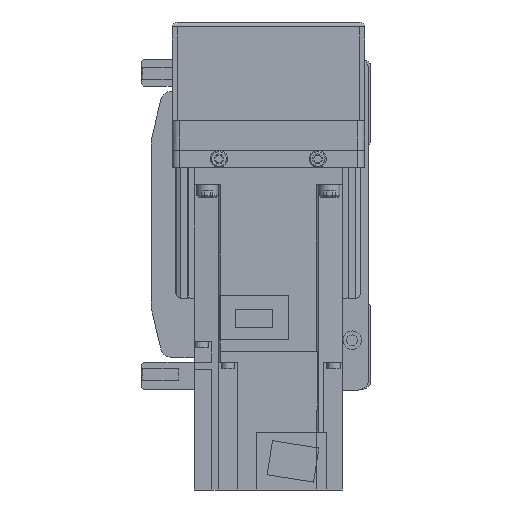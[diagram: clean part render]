
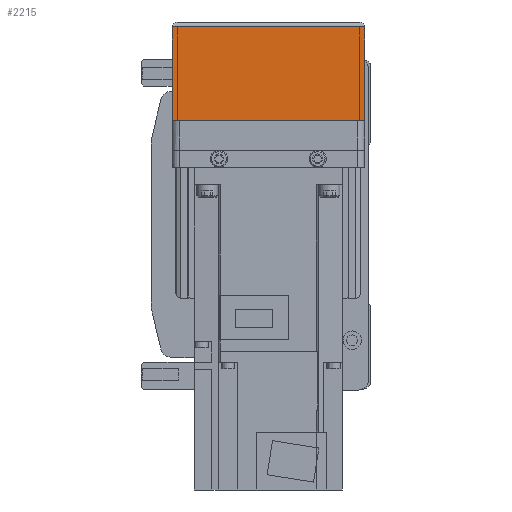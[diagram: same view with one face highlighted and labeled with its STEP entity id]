
A CAD part, left-side view. The second image highlights one B-rep face of the part: STEP entity #2215.
In plain terms, the highlighted planar face has unit normal (-1, 0, 0).
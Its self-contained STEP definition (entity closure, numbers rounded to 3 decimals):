
#2215 = ADVANCED_FACE( '', ( #5100 ), #5101, .F. );
#5100 = FACE_OUTER_BOUND( '', #8790, .T. );
#5101 = PLANE( '', #8791 );
#8790 = EDGE_LOOP( '', ( #15073, #15074, #15075, #15076 ) );
#8791 = AXIS2_PLACEMENT_3D( '', #15077, #15078, #15079 );
#15073 = ORIENTED_EDGE( '', *, *, #22854, .F. );
#15074 = ORIENTED_EDGE( '', *, *, #22855, .F. );
#15075 = ORIENTED_EDGE( '', *, *, #22856, .T. );
#15076 = ORIENTED_EDGE( '', *, *, #22857, .F. );
#15077 = CARTESIAN_POINT( '', ( -158., 36., 7. ) );
#15078 = DIRECTION( '', ( 1., 0., 0. ) );
#15079 = DIRECTION( '', ( 0., 0., -1. ) );
#22854 = EDGE_CURVE( '', #28043, #27199, #28044, .T. );
#22855 = EDGE_CURVE( '', #26189, #28043, #28045, .T. );
#22856 = EDGE_CURVE( '', #26189, #28046, #28047, .T. );
#22857 = EDGE_CURVE( '', #27199, #28046, #28048, .T. );
#26189 = VERTEX_POINT( '', #32927 );
#27199 = VERTEX_POINT( '', #34542 );
#28043 = VERTEX_POINT( '', #35825 );
#28044 = LINE( '', #35826, #35827 );
#28045 = LINE( '', #35828, #35829 );
#28046 = VERTEX_POINT( '', #35830 );
#28047 = LINE( '', #35831, #35832 );
#28048 = LINE( '', #35833, #35834 );
#32927 = CARTESIAN_POINT( '', ( -158., 39., -50. ) );
#34542 = CARTESIAN_POINT( '', ( -158., -39., -12.1 ) );
#35825 = CARTESIAN_POINT( '', ( -158., 39., -12.1 ) );
#35826 = CARTESIAN_POINT( '', ( -158., 50., -12.1 ) );
#35827 = VECTOR( '', #41487, 1000. );
#35828 = CARTESIAN_POINT( '', ( -158., 39., -50. ) );
#35829 = VECTOR( '', #41488, 1000. );
#35830 = CARTESIAN_POINT( '', ( -158., -39., -50. ) );
#35831 = CARTESIAN_POINT( '', ( -158., 40., -50. ) );
#35832 = VECTOR( '', #41489, 1000. );
#35833 = CARTESIAN_POINT( '', ( -158., -39., -12.1 ) );
#35834 = VECTOR( '', #41490, 1000. );
#41487 = DIRECTION( '', ( 0., -1., 0. ) );
#41488 = DIRECTION( '', ( 0., 0., 1. ) );
#41489 = DIRECTION( '', ( 0., -1., 0. ) );
#41490 = DIRECTION( '', ( 0., 0., -1. ) );
